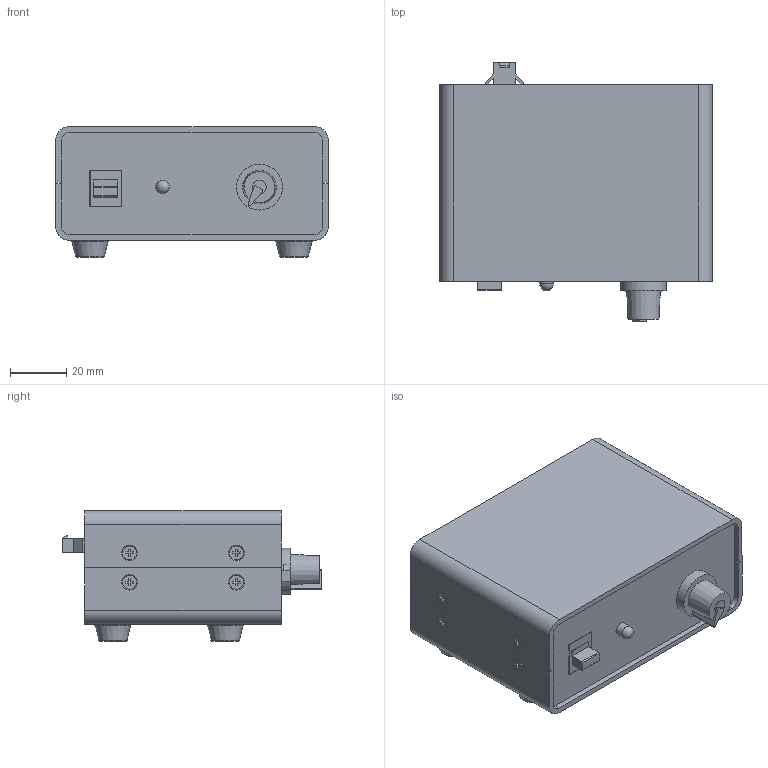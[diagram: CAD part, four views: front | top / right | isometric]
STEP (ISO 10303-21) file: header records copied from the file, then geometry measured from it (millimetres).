
FILE_DESCRIPTION(('STEP AP214'),'1');
FILE_NAME('LED-3WD_Controller.stp','2025-11-13T05:00:02',(' '),(' '),'Spatial InterOp 3D',' ',' ');
FILE_SCHEMA(('AUTOMOTIVE_DESIGN { 1 0 10303 214 1 1 1 1 }'));
Length unit declared in the file: metre
Products named in the file (2): LED-3WD_Controller; Component1
Assembly tree (1 placements, depth 2):
  LED-3WD_Controller
    Component1
Bounding box: 97 x 92 x 46.5 mm (x, y, z)
Volume: 264608.7 mm3; surface area: 31174.5 mm2
Topology: 1 solids, 1 shells, 469 faces, 1265 edges, 825 vertices
Faces by surface type: plane 354, cylinder 88, cone 13, torus 12, sphere 2
Full cylindrical faces by diameter (mm): 1.9 x1, 4.8 x1, 5 x9, 5.5 x4, 6.2 x1, 16.3 x1
Entity records: 18108 total; most frequent: CARTESIAN_POINT 2708, ORIENTED_EDGE 2406, DIRECTION 2313, EDGE_CURVE 1203, LINE 935, VECTOR 935, VERTEX_POINT 806, AXIS2_PLACEMENT_3D 689
